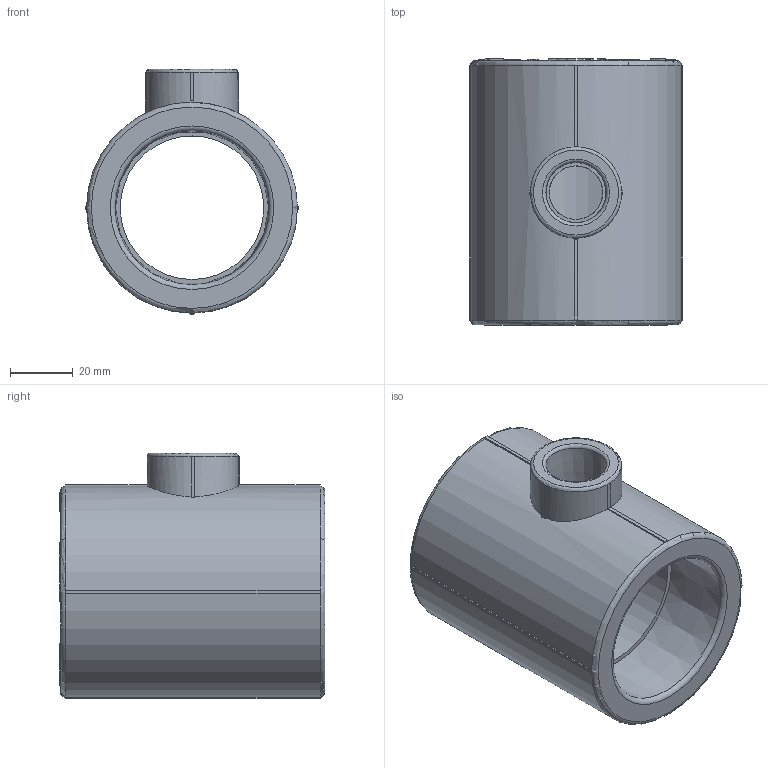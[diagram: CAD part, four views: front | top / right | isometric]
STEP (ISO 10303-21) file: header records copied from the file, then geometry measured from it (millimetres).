
FILE_DESCRIPTION(('STEP AP203'), '1');
FILE_NAME('ÂÐ.752241.063 - VTp.735.0.050020050', '', ('UNSPECIFIED'), ('UNSPECIFIED'), 'C3D Converter', 'C3D Toolkit', '');
FILE_SCHEMA(('CONFIG_CONTROL_DESIGN'));
Length unit declared in the file: millimetre
Products named in the file (1): ВР.752241.063
Bounding box: 68 x 84.5 x 78 mm (x, y, z)
Volume: 149300.7 mm3; surface area: 35840.1 mm2
Topology: 1 solids, 1 shells, 1111 faces, 3116 edges, 2069 vertices
Faces by surface type: extrusion 653, plane 414, cylinder 35, torus 6, cone 3
Full cylindrical faces by diameter (mm): 6 x1, 17 x1, 45.6 x1
Entity records: 41011 total; most frequent: CARTESIAN_POINT 15789, ORIENTED_EDGE 6208, DIRECTION 3117, EDGE_CURVE 3104, VECTOR 2109, VERTEX_POINT 2069, B_SPLINE_CURVE_WITH_KNOTS 1966, LINE 1456
